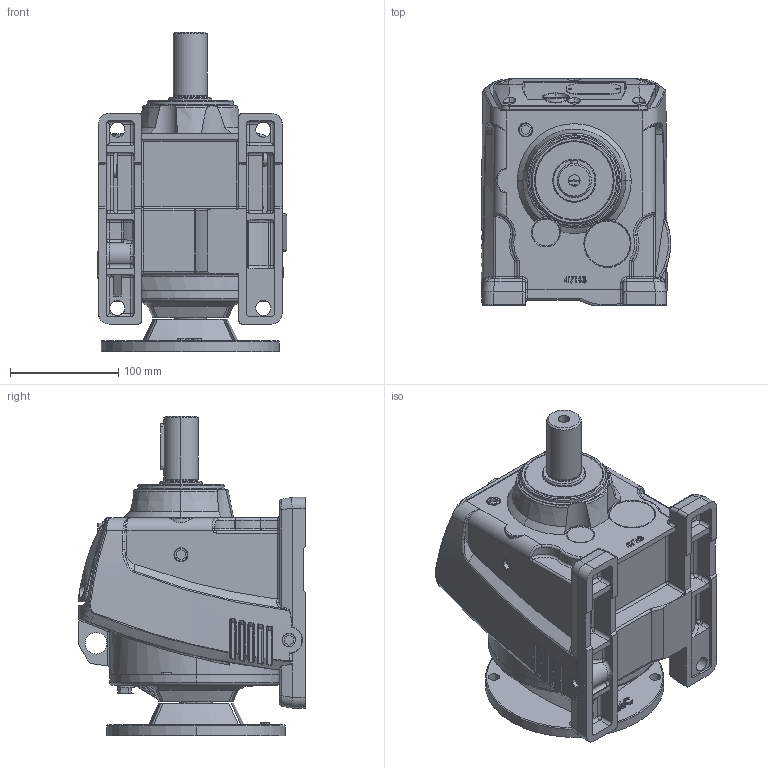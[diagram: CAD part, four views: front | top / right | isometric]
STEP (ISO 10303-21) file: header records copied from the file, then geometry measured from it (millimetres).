
FILE_DESCRIPTION (( 'STEP AP203' ), '1' );
FILE_NAME ('WINL47-56C.STEP', '2013-09-26T09:10:43', ( 'User' ), ( 'Chenta' ), 'SwSTEP 2.0', 'SolidWorks 2011', '' );
FILE_SCHEMA (( 'CONFIG_CONTROL_DESIGN' ));
Length unit declared in the file: millimetre
Products named in the file (1): WINL47-56C
Bounding box: 175.22 x 209.5 x 295.5 mm (x, y, z)
Surface area: 332312.4 mm2 (no closed solid volume)
Topology: 0 solids, 25 shells, 1172 faces, 3420 edges, 2192 vertices
Faces by surface type: cylinder 338, plane 334, bspline 331, cone 71, torus 59, sphere 39
Entity records: 52594 total; most frequent: CARTESIAN_POINT 24651, ORIENTED_EDGE 6100, DIRECTION 5057, EDGE_CURVE 3382, VERTEX_POINT 2190, AXIS2_PLACEMENT_3D 1887, VECTOR 1283, LINE 1283
